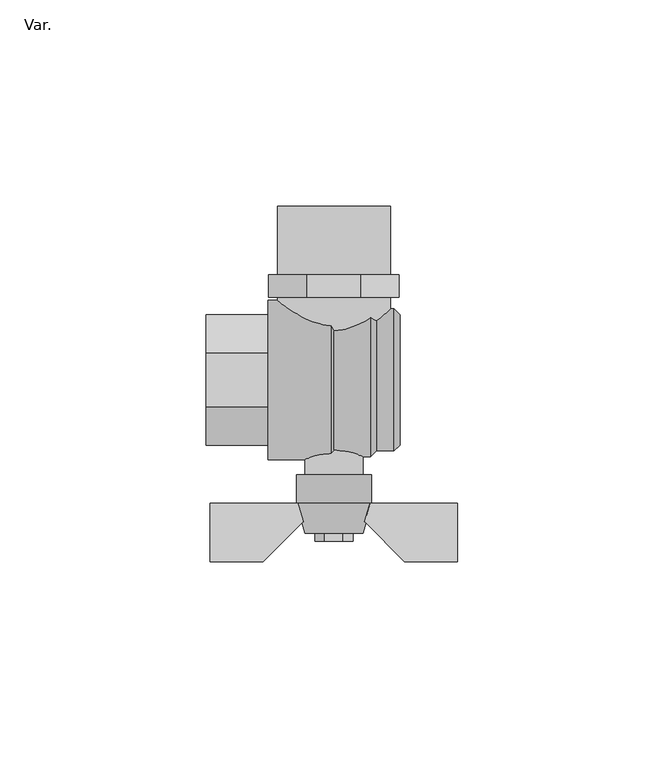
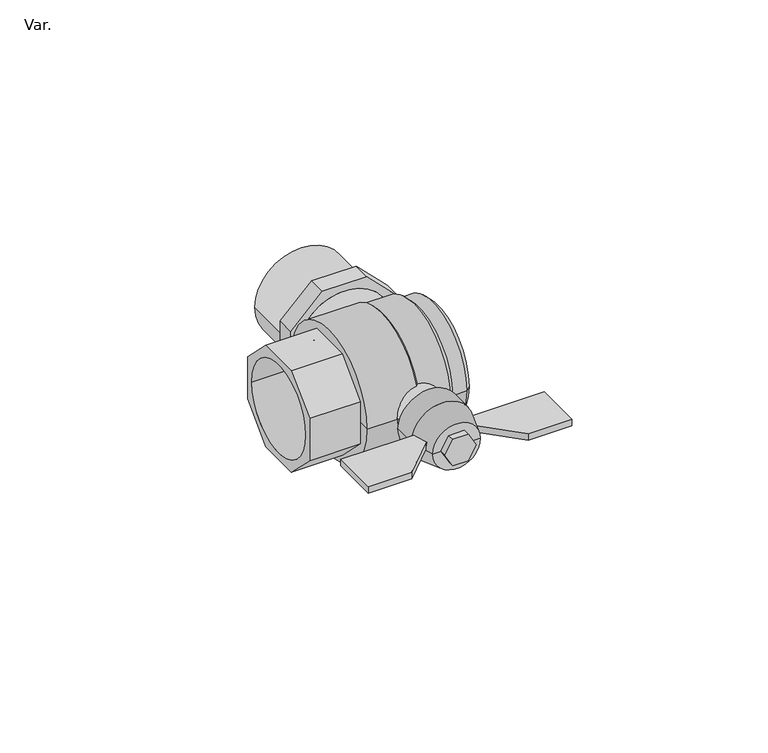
"""IFC4 building model written with IfcOpenShell, lengths in millimetres: pipe fitting geometry, AmancoWavin_Gas_Válvula Angular FM Borboleta (Nested) : Var.."""

from ifc_helpers import new_model, si_unit, point, frame, origin, origin_with_axes, origin_2d, place, context, project, spatial, polyline, circle_curve, trimmed, segment, composite_curve, outline, extrude, source, transform, mapped, element, save
from ifc_brep_helpers import plane_surface, cylinder_surface, revolved_surface, advanced_brep


def var_6f2e27b9(model_context):
    return source(origin(), model_context, "Body", "SolidModel", [
        extrude(outline(polyline([(0.0, -4.6171361), (-4.1, -2.25), (-4.1, 2.25), (0.0, 4.6171361), (4.1, 2.25), (4.1, -2.25), (0.0, -4.6171361)])), frame((0.0, -39.15, 0.0), z_axis=(0.0, 1.0, 0.0), x_axis=(0.0, 0.0, 1.0)), (0.0, 0.0, 1.0), 2.0),
        extrude(outline(polyline([(3.0, -29.9), (30.0, -29.9), (30.0, -44.05), (17.15, -44.05), (7.5, -34.4), (3.0, -34.4), (3.0, -29.9)])), origin_with_axes(), (0.0, 0.0, 1.0), 2.0),
        extrude(outline(polyline([(-3.0, -29.9), (-3.0, -34.4), (-7.5, -34.4), (-17.15, -44.05), (-30.0, -44.05), (-30.0, -29.9), (-3.0, -29.9)])), origin_with_axes(), (0.0, 0.0, 1.0), 2.0),
        advanced_brep(
        [(0.0, -23.0, 0.0), (9.1, -23.0, 0.0), (-9.1, -23.0, 0.0), (-7.0, -37.15, 0.0), (7.0, -37.15, 0.0), (0.0, -37.15, 0.0), (-9.1, -29.9, 0.0), (9.1, -29.9, 0.0)],
        [
            (0, 1),
            (1, 2, circle_curve(frame((0.0, -23.0, 0.0), z_axis=(0.0, 1.0, 0.0), x_axis=(1.0, 0.0, 0.0)), 9.1)),
            (2, 0),
            (2, 1, circle_curve(frame((0.0, -23.0, 0.0), z_axis=(0.0, 1.0, 0.0), x_axis=(1.0, 0.0, 0.0)), 9.1)),
            (3, 4, circle_curve(frame((0.0, -37.15, 0.0), z_axis=(0.0, -1.0, 0.0), x_axis=(1.0, 0.0, 0.0)), 7.0)),
            (4, 5),
            (5, 3),
            (4, 3, circle_curve(frame((0.0, -37.15, 0.0), z_axis=(0.0, -1.0, 0.0), x_axis=(1.0, 0.0, 0.0)), 7.0)),
            (6, 7, circle_curve(frame((0.0, -29.9, 0.0), z_axis=(0.0, -1.0, 0.0), x_axis=(1.0, 0.0, 0.0)), 9.1)),
            (7, 4),
            (3, 6),
            (7, 6, circle_curve(frame((0.0, -29.9, 0.0), z_axis=(0.0, -1.0, 0.0), x_axis=(1.0, 0.0, 0.0)), 9.1)),
            (1, 7),
            (6, 2),
        ],
        [
            plane_surface(frame((0.0, -23.0, 0.0), z_axis=(0.0, 1.0, 0.0), x_axis=(1.0, 0.0, 0.0))),
            plane_surface(frame((0.0, -37.15, 0.0), z_axis=(0.0, -1.0, 0.0), x_axis=(1.0, 0.0, 0.0))),
            revolved_surface(polyline([(7.0, -37.15, 0.0), (9.1, -29.9, 0.0)]), (0.0, 2007.0, 0.0), (0.0, 1.0, 0.0)),
            cylinder_surface(frame((0.0, 2007.0, 0.0), z_axis=(0.0, 1.0, 0.0), x_axis=(1.0, 0.0, 0.0)), 9.1),
        ],
        [
            (0, [[1, 2, 3]]),
            (0, [[-3, 4, -1]]),
            (1, [[5, 6, 7]]),
            (1, [[8, -7, -6]]),
            (2, [[9, 10, -5, 11]]),
            (2, [[12, -11, -8, -10]]),
            (3, [[-2, 13, -9, 14]]),
            (3, [[-4, -14, -12, -13]]),
        ],
    ),
        extrude(outline(composite_curve([segment(trimmed(circle_curve(origin_2d(), 7.0), [point((0.0, -7.0))], [point((0.0, 7.0))], False, "CARTESIAN"), True, "CONTINUOUS"), segment(trimmed(circle_curve(origin_2d(), 7.0), [point((0.0, 7.0))], [point((0.0, -7.0))], False, "CARTESIAN"), True, "CONTINUOUS")], self_intersect=False)), frame((0.0, -23.0, 0.0), z_axis=(0.0, 1.0, 0.0), x_axis=(0.0, 0.0, 1.0)), (0.0, 0.0, 1.0), 23.0),
        extrude(outline(composite_curve([segment(trimmed(circle_curve(origin_2d(), 13.7), [point((0.0, 13.7))], [point((0.0, -13.7))], False, "CARTESIAN"), True, "CONTINUOUS"), segment(trimmed(circle_curve(origin_2d(), 13.7), [point((0.0, -13.7))], [point((0.0, 13.7))], False, "CARTESIAN"), True, "CONTINUOUS")], self_intersect=False), holes=[composite_curve([segment(trimmed(circle_curve(origin_2d(), 12.7), [point((0.0, 12.7))], [point((0.0, -12.7))], True, "CARTESIAN"), True, "CONTINUOUS"), segment(trimmed(circle_curve(origin_2d(), 12.7), [point((0.0, -12.7))], [point((0.0, 12.7))], True, "CARTESIAN"), True, "CONTINUOUS")], self_intersect=False)]), frame((0.0, 25.5, 0.0), z_axis=(0.0, 1.0, 0.0), x_axis=(0.0, 0.0, 1.0)), (0.0, 0.0, 1.0), 16.6),
        extrude(outline(polyline([(6.55, 15.8130988), (15.8130988, 6.55), (15.8130988, -6.55), (6.55, -15.8130988), (-6.55, -15.8130988), (-15.8130988, -6.55), (-15.8130988, 6.55), (-6.55, 15.8130988), (6.55, 15.8130988)]), holes=[composite_curve([segment(trimmed(circle_curve(origin_2d(), 13.7), [point((0.0, 13.7))], [point((0.0, -13.7))], True, "CARTESIAN"), True, "CONTINUOUS"), segment(trimmed(circle_curve(origin_2d(), 13.7), [point((0.0, -13.7))], [point((0.0, 13.7))], True, "CARTESIAN"), True, "CONTINUOUS")], self_intersect=False)]), frame((0.0, 20.0, 0.0), z_axis=(0.0, 1.0, 0.0), x_axis=(0.0, 0.0, 1.0)), (0.0, 0.0, 1.0), 5.5),
        extrude(outline(composite_curve([segment(trimmed(circle_curve(origin_2d(), 13.7), [point((0.0, 13.7))], [point((0.0, -13.7))], False, "CARTESIAN"), True, "CONTINUOUS"), segment(trimmed(circle_curve(origin_2d(), 13.7), [point((0.0, -13.7))], [point((0.0, 13.7))], False, "CARTESIAN"), True, "CONTINUOUS")], self_intersect=False)), frame((0.0, -2.0, 0.0), z_axis=(0.0, 1.0, 0.0), x_axis=(0.0, 0.0, 1.0)), (0.0, 0.0, 1.0), 22.0),
        extrude(outline(polyline([(15.8130988, 6.55), (15.8130988, -6.55), (6.55, -15.8130988), (-6.55, -15.8130988), (-15.8130988, -6.55), (-15.8130988, 6.55), (-6.55, 15.8130988), (6.55, 15.8130988), (15.8130988, 6.55)]), holes=[composite_curve([segment(trimmed(circle_curve(origin_2d(), 13.7), [point((13.7, 0.0))], [point((-13.7, 0.0))], True, "CARTESIAN"), True, "CONTINUOUS"), segment(trimmed(circle_curve(origin_2d(), 13.7), [point((-13.7, 0.0))], [point((13.7, 0.0))], True, "CARTESIAN"), True, "CONTINUOUS")], self_intersect=False)]), frame((-31.0, 0.0, 0.0), z_axis=(1.0, 0.0, 0.0), x_axis=(0.0, 1.0, 0.0)), (0.0, 0.0, 1.0), 15.0),
        advanced_brep(
        [(-16.0, -19.34, 0.0), (-16.0, 19.34, 0.0), (-0.7042017, 19.34, 0.0), (-0.7042017, -19.34, 0.0), (-16.0, 0.0, 0.0), (0.0, -18.63, 0.0), (0.0, 18.63, 0.0), (8.9109254, 18.63, 0.0), (8.9109254, -18.63, 0.0), (10.3235643, 17.2142136, 0.0), (10.3235643, -17.2142136, 0.0), (14.5857864, -17.2142136, 0.0), (14.5857864, 17.2142136, 0.0), (16.0, 15.8, 0.0), (16.0, -15.8, 0.0), (16.0, 0.0, 0.0)],
        [
            (0, 1, circle_curve(frame((-16.0, 0.0, 0.0), z_axis=(1.0, 0.0, 0.0), x_axis=(0.0, 1.0, 0.0)), 19.34)),
            (1, 2),
            (2, 3, circle_curve(frame((-0.7042017, 0.0, 0.0), z_axis=(-1.0, 0.0, 0.0), x_axis=(0.0, 1.0, 0.0)), 19.34)),
            (3, 0),
            (1, 0, circle_curve(frame((-16.0, 0.0, 0.0), z_axis=(1.0, 0.0, 0.0), x_axis=(0.0, 1.0, 0.0)), 19.34)),
            (3, 2, circle_curve(frame((-0.7042017, 0.0, 0.0), z_axis=(-1.0, 0.0, 0.0), x_axis=(0.0, 1.0, 0.0)), 19.34)),
            (4, 1),
            (0, 4),
            (5, 6, circle_curve(frame((0.0, 0.0, 0.0), z_axis=(1.0, 0.0, 0.0), x_axis=(0.0, 1.0, 0.0)), 18.63)),
            (6, 7),
            (7, 8, circle_curve(frame((8.9109254, 0.0, 0.0), z_axis=(-1.0, 0.0, 0.0), x_axis=(0.0, 1.0, 0.0)), 18.63)),
            (8, 5),
            (6, 5, circle_curve(frame((0.0, 0.0, 0.0), z_axis=(1.0, 0.0, 0.0), x_axis=(0.0, 1.0, 0.0)), 18.63)),
            (8, 7, circle_curve(frame((8.9109254, 0.0, 0.0), z_axis=(-1.0, 0.0, 0.0), x_axis=(0.0, 1.0, 0.0)), 18.63)),
            (7, 9),
            (9, 10, circle_curve(frame((10.3235643, 0.0, 0.0), z_axis=(-1.0, 0.0, 0.0), x_axis=(0.0, 1.0, 0.0)), 17.2142136)),
            (10, 8),
            (10, 9, circle_curve(frame((10.3235643, 0.0, 0.0), z_axis=(-1.0, 0.0, 0.0), x_axis=(0.0, 1.0, 0.0)), 17.2142136)),
            (2, 6),
            (5, 3),
            (11, 12, circle_curve(frame((14.5857864, 0.0, 0.0), z_axis=(1.0, 0.0, 0.0), x_axis=(0.0, 1.0, 0.0)), 17.2142136)),
            (12, 13),
            (13, 14, circle_curve(frame((16.0, 0.0, 0.0), z_axis=(-1.0, 0.0, 0.0), x_axis=(0.0, 1.0, 0.0)), 15.8)),
            (14, 11),
            (12, 11, circle_curve(frame((14.5857864, 0.0, 0.0), z_axis=(1.0, 0.0, 0.0), x_axis=(0.0, 1.0, 0.0)), 17.2142136)),
            (14, 13, circle_curve(frame((16.0, 0.0, 0.0), z_axis=(-1.0, 0.0, 0.0), x_axis=(0.0, 1.0, 0.0)), 15.8)),
            (9, 12),
            (11, 10),
            (13, 15),
            (15, 14),
        ],
        [
            cylinder_surface(frame((1995.7869923, 0.0, 0.0), z_axis=(-1.0, 0.0, 0.0), x_axis=(0.0, 1.0, 0.0)), 19.34),
            plane_surface(frame((-16.0, 0.0, 0.0), z_axis=(-1.0, 0.0, 0.0), x_axis=(0.0, 1.0, 0.0))),
            cylinder_surface(frame((1995.7869923, 0.0, 0.0), z_axis=(-1.0, 0.0, 0.0), x_axis=(0.0, 1.0, 0.0)), 18.63),
            revolved_surface(polyline([(10.3235643, 17.2142136, 0.0), (8.9109254, 18.63, 0.0)]), (1995.7869923, 0.0, 0.0), (-1.0, 0.0, 0.0)),
            revolved_surface(polyline([(0.0, 18.63, 0.0), (-0.7042017, 19.34, 0.0)]), (1995.7869923, 0.0, 0.0), (-1.0, 0.0, 0.0)),
            revolved_surface(polyline([(16.0, 15.8, 0.0), (14.5857864, 17.2142136, 0.0)]), (1995.7869923, 0.0, 0.0), (-1.0, 0.0, 0.0)),
            cylinder_surface(frame((1995.7869923, 0.0, 0.0), z_axis=(-1.0, 0.0, 0.0), x_axis=(0.0, 1.0, 0.0)), 17.2142136),
            plane_surface(frame((16.0, 0.0, 0.0), z_axis=(1.0, 0.0, 0.0), x_axis=(0.0, 1.0, 0.0))),
        ],
        [
            (0, [[1, 2, 3, 4]]),
            (0, [[5, -4, 6, -2]]),
            (1, [[7, -1, 8]]),
            (1, [[-8, -5, -7]]),
            (2, [[9, 10, 11, 12]]),
            (2, [[13, -12, 14, -10]]),
            (3, [[-11, 15, 16, 17]]),
            (3, [[-14, -17, 18, -15]]),
            (4, [[-3, 19, -9, 20]]),
            (4, [[-6, -20, -13, -19]]),
            (5, [[21, 22, 23, 24]]),
            (5, [[25, -24, 26, -22]]),
            (6, [[-16, 27, -21, 28]]),
            (6, [[-18, -28, -25, -27]]),
            (7, [[-23, 29, 30]]),
            (7, [[-26, -30, -29]]),
        ],
    ),
    ])


if __name__ == "__main__":
    model = new_model("IFC4")
    model_context = context("Model", 3, world=origin())
    ifc_project = project(units=[si_unit("LENGTHUNIT", "METRE", prefix="MILLI")], contexts=[model_context])
    site = spatial("IfcSite", under=ifc_project)
    building = spatial("IfcBuilding", under=site)
    placement = place(None, origin())
    var_shape = var_6f2e27b9(model_context)
    element("IfcPipeFitting", 1, ObjectType="AmancoWavin_Gas_Válvula Angular FM Borboleta (Nested) : Var.", at=placement, inside=building, context=model_context, shape_type="MappedRepresentation", body=[
        mapped(var_shape, transform((0.0, 0.0, 0.0), x_axis=(1.0, 0.0, 0.0), y_axis=(0.0, 1.0, 0.0), z_axis=(0.0, 0.0, 1.0))),
    ])
    save(model, "model.ifc")
